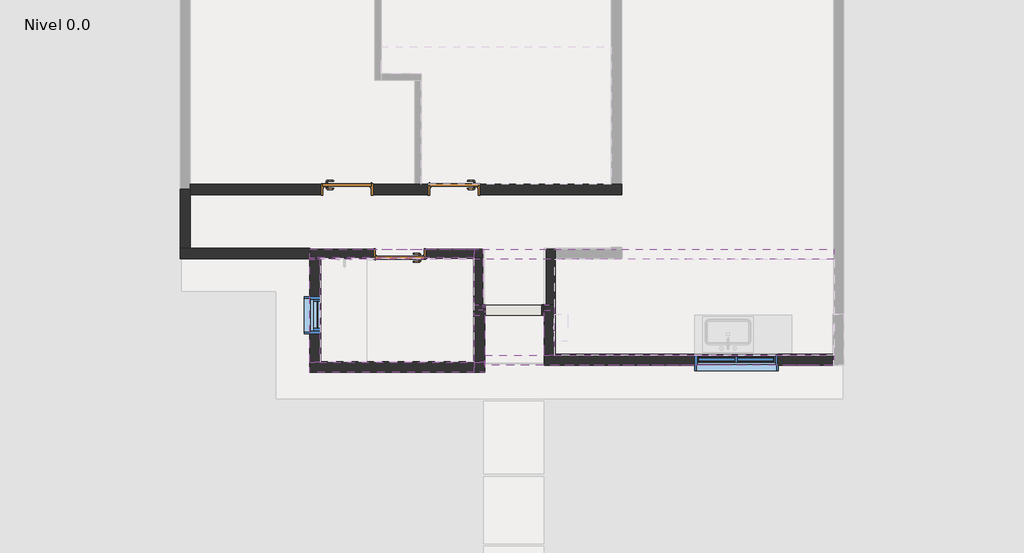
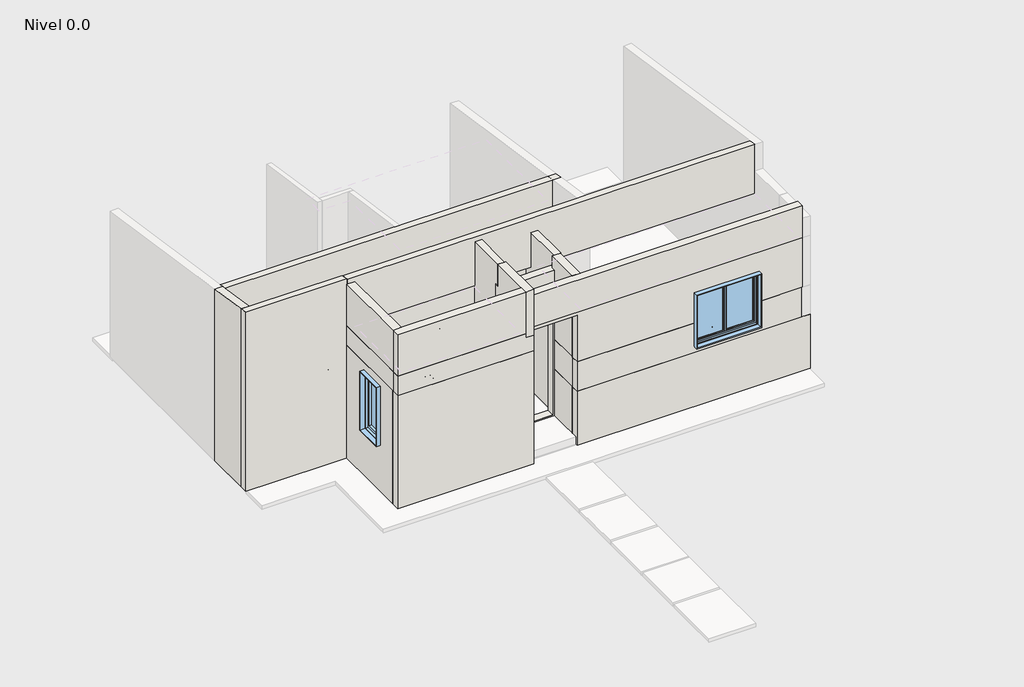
# One storey, part 1 of 2: 27 walls, 3 doors, 2 windows.
"""IFC4 building model written with IfcOpenShell, lengths in millimetres."""

from ifc_helpers import new_model, si_unit, frame, origin, place, context, project, spatial, polyline, outline, extrude, faceted_brep, transform, mapped, element, save
from components import puerta_interior_p3_6b3bcaa5, puerta_interior_p3_2876d2fa, puerta_interior_p3_7086e057, v2_3362589a, ventana1_20x1_20_v1_279ed5bb

model = new_model("IFC4")

# Units and contexts
model_context = context("Model", 3, world=origin())
ifc_project = project(units=[si_unit("LENGTHUNIT", "METRE", prefix="MILLI")], contexts=[model_context])

# Site, building, storey
site = spatial("IfcSite", under=ifc_project)
building = spatial("IfcBuilding", under=site)
storey = spatial("IfcBuildingStorey", under=building, Name="Nivel 0.0", Elevation=0.0)

# Doors
placement = place(None, origin())
puerta_interior_p3_shape = puerta_interior_p3_6b3bcaa5(model_context)
element("IfcDoor", 1, ObjectType="Puerta Interior : P3", at=placement, inside=storey, context=model_context, shape_type="MappedRepresentation", body=[
    mapped(puerta_interior_p3_shape, transform((-5709.8471251, -1747.7987, -0.816385), x_axis=(1.0, 0.0, 0.0), y_axis=(0.0, 1.0, 0.0), z_axis=(0.0, 0.0, 1.0))),
])
puerta_interior_p3_2_shape = puerta_interior_p3_2876d2fa(model_context)
element("IfcDoor", 2, ObjectType="Puerta Interior : P3", at=placement, inside=storey, context=model_context, shape_type="MappedRepresentation", body=[
    mapped(puerta_interior_p3_2_shape, transform((-6497.085595, -782.2221748, -0.816385), x_axis=(-1.0, 0.0, 0.0), y_axis=(0.0, -1.0, 0.0), z_axis=(0.0, 0.0, 1.0))),
])
puerta_interior_p3_3_shape = puerta_interior_p3_7086e057(model_context)
element("IfcDoor", 3, ObjectType="Puerta Interior : P3", at=placement, inside=storey, context=model_context, shape_type="MappedRepresentation", body=[
    mapped(puerta_interior_p3_3_shape, transform((-4897.085595, -782.2221748, -0.816385), x_axis=(1.0, 0.0, 0.0), y_axis=(0.0, 1.0, 0.0), z_axis=(0.0, 0.0, 1.0))),
])

# Walls
element("IfcWall", 4, ObjectType="Pe-NW-002", at=placement, inside=storey, context=model_context, shape_type="Brep", body=[
    faceted_brep([(-8995.585471, -1817.5487, -175.0), (-7058.0136856, -1817.5487, -175.0), (-7058.0136856, -1817.5487, 3467.4312319), (-8995.585471, -1817.5487, 3467.4312319), (-8995.585471, -1664.5487, -175.0), (-8995.585471, -1664.5487, 3444.4812319), (-8842.585471, -1664.5487, 3444.4812319), (-7058.0136856, -1664.5487, 3444.4812319), (-7058.0136856, -1664.5487, -175.0), (-8953.085471, -1664.5487, -175.0)], [[[0, 1, 2, 3]], [[4, 5, 6, 7, 8, 9]], [[1, 0, 4, 9, 8]], [[2, 1, 8, 7]], [[3, 2, 7, 6, 5]], [[0, 3, 5, 4]]]),
])
element("IfcWall", 5, ObjectType="Pi-NW-054", at=placement, inside=storey, context=model_context, shape_type="Brep", body=[
    faceted_brep([(-2388.7184884, -859.4721748, 3323.7197531), (-8842.585471, -859.4721748, 3323.7197531), (-8842.585471, -859.4721748, 0.0), (-6887.085595, -859.4721748, 0.0), (-6887.085595, -859.4721748, 2099.183615), (-6107.085595, -859.4721748, 2099.183615), (-6107.085595, -859.4721748, 0.0), (-5287.085595, -859.4721748, 0.0), (-5287.085595, -859.4721748, 2099.183615), (-4507.085595, -859.4721748, 2099.183615), (-4507.085595, -859.4721748, 0.0), (-2388.7184884, -859.4721748, 0.0), (-8842.585471, -704.9721748, 3300.5447531), (-5484.335595, -704.9721748, 3300.5447531), (-5389.835595, -704.9721748, 3300.5447531), (-2388.7184884, -704.9721748, 3300.5447531), (-2388.7184884, -704.9721748, 2100.0), (-2388.7184884, -704.9721748, 0.0), (-2543.2184884, -704.9721748, 0.0), (-4507.085595, -704.9721748, 0.0), (-4507.085595, -704.9721748, 2099.183615), (-5287.085595, -704.9721748, 2099.183615), (-5287.085595, -704.9721748, 0.0), (-5389.835595, -704.9721748, 0.0), (-5484.335595, -704.9721748, 0.0), (-6107.085595, -704.9721748, 0.0), (-6107.085595, -704.9721748, 2099.183615), (-6887.085595, -704.9721748, 2099.183615), (-6887.085595, -704.9721748, 0.0), (-8842.585471, -704.9721748, 0.0), (-8842.585471, -782.2221748, 3312.1322531)], [[[0, 1, 2, 3, 4, 5, 6, 7, 8, 9, 10, 11]], [[12, 13, 14, 15, 16, 17, 18, 19, 20, 21, 22, 23, 24, 25, 26, 27, 28, 29]], [[3, 2, 29, 28]], [[6, 25, 24, 23, 22, 7]], [[17, 11, 10, 19, 18]], [[1, 0, 15, 14, 13, 12, 30]], [[4, 3, 28, 27]], [[5, 4, 27, 26]], [[6, 5, 26, 25]], [[9, 20, 19, 10]], [[20, 9, 8, 21]], [[21, 8, 7, 22]], [[2, 1, 30, 12, 29]], [[0, 11, 17, 16, 15]]]),
])
element("IfcWall", 6, ObjectType="Pe-NW-001", at=placement, inside=storey, context=model_context, shape_type="Brep", body=[
    faceted_brep([(-7053.5136856, -1832.0487, 2477.1107105), (784.414529, -1832.0487, 2477.1107105), (784.414529, -1832.0487, 2925.0), (784.414529, -1832.0487, 3469.6062319), (-7053.5136856, -1832.0487, 3469.6062319), (784.414529, -1679.5487, 2477.1107105), (-7053.5136856, -1679.5487, 2477.1107105), (-7053.5136856, -1679.5487, 3446.7312319), (-2543.2184884, -1679.5487, 3446.7312319), (-2388.7184884, -1679.5487, 3446.7312319), (784.414529, -1679.5487, 3446.7312319)], [[[0, 1, 2, 3, 4]], [[5, 6, 7, 8, 9, 10]], [[4, 3, 10, 9, 8, 7]], [[1, 0, 6, 5]], [[6, 0, 4, 7]], [[1, 5, 10, 3, 2]]]),
])
element("IfcWall", 7, ObjectType="Pe-NW-006", at=placement, inside=storey, context=model_context, shape_type="Brep", body=[
    faceted_brep([(-7058.0136856, -3522.7853265, -175.0), (-4439.0136856, -3522.7853265, -175.0), (-4439.0136856, -3522.7853265, 2125.0), (-7058.0136856, -3522.7853265, 2125.0), (-7058.0136856, -3358.7853265, 2125.0), (-6894.0136856, -3358.7853265, 2125.0), (-4591.0136856, -3358.7853265, 2125.0), (-4439.0136856, -3358.7853265, 2125.0), (-4439.0136856, -3358.7853265, 2037.3907384), (-4439.0136856, -3358.7853265, -25.0), (-4603.0136856, -3358.7853265, -25.0), (-6196.1040625, -3358.7853265, -25.0), (-6196.1040625, -3358.7853265, -50.816385), (-6898.7636856, -3358.7853265, -50.816385), (-6898.7636856, -3358.7853265, -25.0), (-7016.0136856, -3358.7853265, -25.0), (-7016.0136856, -3358.7853265, -175.0), (-7058.0136856, -3358.7853265, -175.0), (-7016.0136856, -3480.7853265, -175.0), (-4481.0136856, -3480.7853265, -175.0), (-4481.0136856, -3375.7853265, -175.0), (-4439.0136856, -3375.7853265, -175.0), (-4439.0136856, -3370.7853265, 2125.0), (-7058.0136856, -3370.7853265, 2125.0), (-4439.0136856, -3375.7853265, -25.0), (-6196.1040625, -3363.5353265, -50.816385), (-6898.7636856, -3363.5353265, -50.816385), (-4481.0136856, -3480.7853265, -25.0), (-7016.0136856, -3480.7853265, -25.0), (-6898.7636856, -3363.5353265, -25.0), (-6196.1040625, -3363.5353265, -25.0), (-4481.0136856, -3375.7853265, -25.0)], [[[0, 1, 2, 3]], [[4, 5, 6, 7, 8, 9, 10, 11, 12, 13, 14, 15, 16, 17]], [[1, 0, 17, 16, 18, 19, 20, 21]], [[3, 2, 22, 7, 6, 5, 4, 23]], [[7, 22, 2, 1, 21, 24, 9, 8]], [[13, 12, 25, 26]], [[27, 28, 15, 14, 29, 30, 11, 10, 9, 24, 31]], [[20, 31, 24, 21]], [[27, 31, 20, 19]], [[28, 27, 19, 18]], [[30, 25, 12, 11]], [[30, 29, 26, 25]], [[26, 29, 14, 13]], [[0, 3, 23, 4, 17]], [[28, 18, 16, 15]]]),
    faceted_brep([(-6898.7636856, -3358.7853265, -75.816385), (-6196.1040625, -3358.7853265, -75.816385), (-6196.1040625, -3358.7853265, -175.0), (-6894.0136856, -3358.7853265, -175.0), (-6898.7636856, -3358.7853265, -175.0), (-6196.1040625, -3363.5353265, -175.0), (-6898.7636856, -3363.5353265, -175.0), (-6898.7636856, -3363.5353265, -75.816385), (-6196.1040625, -3363.5353265, -75.816385)], [[[0, 1, 2, 3, 4]], [[4, 3, 2, 5, 6]], [[1, 0, 7, 8]], [[8, 5, 2, 1]], [[5, 8, 7, 6]], [[6, 7, 0, 4]]]),
])
element("IfcWall", 8, ObjectType="Pe-NW-004", at=placement, inside=storey, context=model_context, shape_type="Brep", body=[
    faceted_brep([(-7058.0136856, -3522.7853265, 2525.0), (-4591.0136856, -3522.7853265, 2525.0), (-4591.0136856, -3522.7853265, 3370.0), (-7058.0136856, -3522.7853265, 3370.0), (-7058.0136856, -3370.7853265, 2525.0), (-7058.0136856, -3370.7853265, 3370.0), (-6906.0136856, -3370.7853265, 3370.0), (-4591.0136856, -3370.7853265, 3370.0), (-4591.0136856, -3370.7853265, 2525.0), (-6906.0136856, -3370.7853265, 2525.0)], [[[0, 1, 2, 3]], [[4, 5, 6, 7, 8, 9]], [[1, 0, 4, 9, 8]], [[3, 2, 7, 6, 5]], [[1, 8, 7, 2]], [[0, 3, 5, 4]]]),
])
element("IfcWall", 9, ObjectType="Pe-NW-003", at=placement, inside=storey, context=model_context, shape_type="Brep", body=[
    faceted_brep([(-3548.0136856, -2512.9025284, 925.0), (-3548.0136856, -2665.9025284, 925.0), (-3548.0136856, -3253.7853265, 925.0), (-3548.0136856, -3253.7853265, 1525.0), (-3548.0136856, -2512.9025284, 1525.0), (-3383.5136856, -2512.9025284, 925.0), (-3383.5136856, -2512.9025284, 1525.0), (-3383.5136856, -3253.7853265, 1525.0), (-3383.5136856, -3253.7853265, 925.0), (-3383.5136856, -2665.9025284, 925.0), (-3395.0136856, -2512.9025284, 1525.0)], [[[0, 1, 2, 3, 4]], [[5, 6, 7, 8, 9]], [[2, 1, 0, 5, 9, 8]], [[4, 3, 7, 6, 10]], [[0, 4, 10, 6, 5]], [[3, 2, 8, 7]]]),
])
element("IfcWall", 10, ObjectType="Pe-NW-002", at=placement, inside=storey, context=model_context, shape_type="Brep", body=[
    faceted_brep([(-3548.0136856, -2512.9025284, 1525.0), (-3548.0136856, -3253.7853265, 1525.0), (-3548.0136856, -3265.2853265, 1525.0), (-3548.0136856, -3265.2853265, 2470.0), (-3548.0136856, -2512.9025284, 2470.0), (-3395.0136856, -3265.2853265, 1525.0), (-3395.0136856, -2512.9025284, 1525.0), (-3395.0136856, -2512.9025284, 2470.0), (-3395.0136856, -3265.2853265, 2470.0)], [[[0, 1, 2, 3, 4]], [[5, 6, 7, 8]], [[2, 1, 0, 6, 5]], [[6, 0, 4, 7]], [[4, 3, 8, 7]], [[2, 5, 8, 3]]]),
])
element("IfcWall", 11, ObjectType="Pe-NW-003", at=placement, inside=storey, context=model_context, shape_type="Brep", body=[
    faceted_brep([(-3548.0136856, -3418.2853265, 925.0), (772.914529, -3418.2853265, 925.0), (772.914529, -3418.2853265, 1525.0), (-50.5614537, -3418.2853265, 1525.0), (-50.5614537, -3418.2853265, 1040.0), (-1300.5614537, -3418.2853265, 1040.0), (-1300.5614537, -3418.2853265, 1525.0), (-3548.0136856, -3418.2853265, 1525.0), (772.914529, -3253.7853265, 925.0), (-3383.5136856, -3253.7853265, 925.0), (-3548.0136856, -3253.7853265, 925.0), (-3548.0136856, -3253.7853265, 1525.0), (-3383.5136856, -3253.7853265, 1525.0), (-1300.5614537, -3253.7853265, 1525.0), (-1300.5614537, -3253.7853265, 1040.0), (-50.5614537, -3253.7853265, 1040.0), (-50.5614537, -3253.7853265, 1525.0), (772.914529, -3253.7853265, 1525.0), (-3548.0136856, -3265.2853265, 1525.0), (-3548.0136856, -3265.2853265, 925.0)], [[[0, 1, 2, 3, 4, 5, 6, 7]], [[8, 9, 10, 11, 12, 13, 14, 15, 16, 17]], [[15, 4, 3, 16]], [[5, 14, 13, 6]], [[4, 15, 14, 5]], [[2, 17, 16, 3]], [[11, 18, 7, 6, 13, 12]], [[1, 0, 19, 10, 9, 8]], [[2, 1, 8, 17]], [[0, 7, 18, 11, 10, 19]]]),
])
element("IfcWall", 12, ObjectType="Pe-NW-002", at=placement, inside=storey, context=model_context, shape_type="Brep", body=[
    faceted_brep([(784.414529, -3418.2853265, 2525.0), (-4439.0136856, -3418.2853265, 2525.0), (-4439.0136856, -3418.2853265, 2470.0), (-3548.0136856, -3418.2853265, 2470.0), (-3548.0136856, -3418.2853265, 1525.0), (-1300.5614537, -3418.2853265, 1525.0), (-1300.5614537, -3418.2853265, 2140.0), (-50.5614537, -3418.2853265, 2140.0), (-50.5614537, -3418.2853265, 1525.0), (772.914529, -3418.2853265, 1525.0), (784.414529, -3418.2853265, 1525.0), (-4439.0136856, -3265.2853265, 2525.0), (784.414529, -3265.2853265, 2525.0), (784.414529, -3265.2853265, 1525.0), (-50.5614537, -3265.2853265, 1525.0), (-50.5614537, -3265.2853265, 2140.0), (-1300.5614537, -3265.2853265, 2140.0), (-1300.5614537, -3265.2853265, 1525.0), (-3395.0136856, -3265.2853265, 1525.0), (-3548.0136856, -3265.2853265, 1525.0), (-3548.0136856, -3265.2853265, 2470.0), (-4439.0136856, -3265.2853265, 2470.0)], [[[0, 1, 2, 3, 4, 5, 6, 7, 8, 9, 10]], [[11, 12, 13, 14, 15, 16, 17, 18, 19, 20, 21]], [[1, 0, 12, 11]], [[13, 10, 9, 8, 14]], [[4, 19, 18, 17, 5]], [[0, 10, 13, 12]], [[3, 2, 21, 20]], [[7, 15, 14, 8]], [[15, 7, 6, 16]], [[16, 6, 5, 17]], [[4, 3, 20, 19]], [[2, 1, 11, 21]]]),
])
element("IfcWall", 13, ObjectType="Pe-NW-001", at=placement, inside=storey, context=model_context, shape_type="Brep", body=[
    faceted_brep([(784.914529, -3418.2853265, 3180.0), (-4439.0136856, -3418.2853265, 3180.0), (-4439.0136856, -3418.2853265, 2525.0), (784.414529, -3418.2853265, 2525.0), (784.914529, -3418.2853265, 2525.0), (784.914529, -3418.2853265, 2925.0), (784.914529, -3265.7853265, 3180.0), (784.914529, -3265.7853265, 2525.0), (-4439.0136856, -3265.7853265, 2525.0), (-4439.0136856, -3265.7853265, 3180.0), (-3548.0136856, -3265.7853265, 3180.0), (-3395.5136856, -3265.7853265, 3180.0)], [[[0, 1, 2, 3, 4, 5]], [[6, 7, 8, 9, 10, 11]], [[1, 0, 6, 11, 10, 9]], [[4, 3, 2, 8, 7]], [[0, 5, 4, 7, 6]], [[2, 1, 9, 8]]]),
])
element("IfcWall", 14, ObjectType="Pe-NW-006", at=placement, inside=storey, context=model_context, shape_type="Brep", body=[
    faceted_brep([(-4439.0136856, -3358.7853265, -262.6092616), (-4439.0136856, -2512.9025284, -262.6092616), (-4439.0136856, -2512.9025284, -175.0), (-4439.0136856, -3358.7853265, -175.0), (-4603.0136856, -2512.9025284, -262.6092616), (-4603.0136856, -3358.7853265, -262.6092616), (-4603.0136856, -3358.7853265, -175.0), (-4603.0136856, -2512.9025284, -175.0)], [[[0, 1, 2, 3]], [[4, 5, 6, 7]], [[1, 0, 5, 4]], [[5, 0, 3, 6]], [[3, 2, 7, 6]], [[1, 4, 7, 2]]]),
    faceted_brep([(-4439.0136856, -2512.9025284, 2037.3907384), (-4439.0136856, -2665.9025284, 2037.3907384), (-4439.0136856, -3358.7853265, 2037.3907384), (-4439.0136856, -3358.7853265, -25.0), (-4439.0136856, -2512.9025284, -25.0), (-4603.0136856, -3358.7853265, 2037.3907384), (-4603.0136856, -2665.9025284, 2037.3907384), (-4603.0136856, -2512.9025284, 2037.3907384), (-4603.0136856, -2512.9025284, -25.0), (-4603.0136856, -3358.7853265, -25.0), (-4591.0136856, -3358.7853265, 2037.3907384)], [[[0, 1, 2, 3, 4]], [[5, 6, 7, 8, 9]], [[2, 1, 0, 7, 6, 5, 10]], [[2, 10, 5, 9, 3]], [[4, 3, 9, 8]], [[7, 0, 4, 8]]]),
])
element("IfcWall", 15, ObjectType="Pe-NW-004", at=placement, inside=storey, context=model_context, shape_type="Brep", body=[
    faceted_brep([(-4439.0136856, -3522.7853265, 2437.3907384), (-4439.0136856, -3370.7853265, 2437.3907384), (-4439.0136856, -2665.9025284, 2437.3907384), (-4439.0136856, -2512.9025284, 2437.3907384), (-4439.0136856, -2512.9025284, 2925.0), (-4439.0136856, -2589.4025284, 2925.0), (-4439.0136856, -2589.4025284, 3370.0), (-4439.0136856, -3522.7853265, 3370.0), (-4591.0136856, -2512.9025284, 2437.3907384), (-4591.0136856, -2665.9025284, 2437.3907384), (-4591.0136856, -3370.7853265, 2437.3907384), (-4591.0136856, -3522.7853265, 2437.3907384), (-4591.0136856, -3522.7853265, 2525.0), (-4591.0136856, -3522.7853265, 3370.0), (-4591.0136856, -3370.7853265, 3370.0), (-4591.0136856, -2589.4025284, 3370.0), (-4591.0136856, -2589.4025284, 2925.0), (-4591.0136856, -2512.9025284, 2925.0), (-4466.5136856, -2512.9025284, 2437.3907384), (-4466.5136856, -2589.4025284, 3370.0), (-4466.5136856, -2589.4025284, 2925.0), (-4466.5136856, -2512.9025284, 2925.0)], [[[0, 1, 2, 3, 4, 5, 6, 7]], [[8, 9, 10, 11, 12, 13, 14, 15, 16, 17]], [[3, 2, 1, 0, 11, 10, 9, 8, 18]], [[7, 6, 19, 15, 14, 13]], [[16, 15, 19, 6, 5, 20]], [[5, 4, 21, 17, 16, 20]], [[7, 13, 12, 11, 0]], [[4, 3, 18, 8, 17, 21]]]),
])
element("IfcWall", 16, ObjectType="Pi-NW-053", at=placement, inside=storey, context=model_context, shape_type="Brep", body=[
    faceted_brep([(-4466.5136856, -1816.0487, 2100.0), (-4591.0136856, -1816.0487, 2100.0), (-7058.0136856, -1816.0487, 2100.0), (-7058.0136856, -1816.0487, 0.0), (-6099.8471251, -1816.0487, 0.0), (-6099.8471251, -1816.0487, 2099.183615), (-5319.8471251, -1816.0487, 2099.183615), (-5319.8471251, -1816.0487, 0.0), (-4466.5136856, -1816.0487, 0.0), (-4466.5136856, -1816.0487, 2039.183615), (-7058.0136856, -1679.5487, 2100.0), (-4591.0136856, -1679.5487, 2100.0), (-4466.5136856, -1679.5487, 2100.0), (-4466.5136856, -1679.5487, 0.0), (-5319.8471251, -1679.5487, 0.0), (-5319.8471251, -1679.5487, 2099.183615), (-6099.8471251, -1679.5487, 2099.183615), (-6099.8471251, -1679.5487, 0.0), (-7058.0136856, -1679.5487, 0.0), (-7058.0136856, -1804.0487, 2100.0)], [[[0, 1, 2, 3, 4, 5, 6, 7, 8, 9]], [[10, 11, 12, 13, 14, 15, 16, 17, 18]], [[13, 8, 7, 14]], [[3, 18, 17, 4]], [[2, 1, 0, 12, 11, 10, 19]], [[6, 15, 14, 7]], [[15, 6, 5, 16]], [[16, 5, 4, 17]], [[8, 13, 12, 0, 9]], [[3, 2, 19, 10, 18]]]),
])
element("IfcWall", 17, ObjectType="Pi-NW-053", at=placement, inside=storey, context=model_context, shape_type="Brep", body=[
    faceted_brep([(-3383.5136856, -2512.9025284, 1525.0), (-3383.5136856, -2512.9025284, 925.0), (-3383.5136856, -2512.9025284, -175.0), (-3383.5136856, -1816.0487, -175.0), (-3383.5136856, -1679.5487, -175.0), (-3383.5136856, -1679.5487, 2477.1107105), (-3383.5136856, -1679.5487, 3180.0), (-3383.5136856, -2589.4025284, 3180.0), (-3383.5136856, -2589.4025284, 2925.0), (-3383.5136856, -2512.9025284, 2925.0), (-3520.0136856, -2512.9025284, -175.0), (-3520.0136856, -2512.9025284, 1525.0), (-3520.0136856, -2512.9025284, 2925.0), (-3520.0136856, -2589.4025284, 2925.0), (-3520.0136856, -2589.4025284, 3180.0), (-3520.0136856, -1679.5487, 3180.0), (-3520.0136856, -1679.5487, -175.0), (-3395.5136856, -2589.4025284, 3180.0), (-3395.5136856, -2589.4025284, 2925.0), (-3395.5136856, -2512.9025284, 2925.0)], [[[0, 1, 2, 3, 4, 5, 6, 7, 8, 9]], [[10, 11, 12, 13, 14, 15, 16]], [[4, 3, 2, 10, 16]], [[7, 6, 15, 14, 17]], [[6, 5, 4, 16, 15]], [[8, 7, 17, 14, 13, 18]], [[8, 18, 13, 12, 19, 9]], [[9, 19, 12, 11, 0]], [[0, 11, 10, 2, 1]]]),
])
element("IfcWall", 18, ObjectType="Pe-NW-002", at=placement, inside=storey, context=model_context, shape_type="Brep", body=[
    faceted_brep([(-4439.0136856, -2665.9025284, -175.0), (-3548.0136856, -2665.9025284, -175.0), (-3395.0136856, -2665.9025284, -175.0), (-3383.5136856, -2665.9025284, -175.0), (-3383.5136856, -2665.9025284, 925.0), (-3395.0136856, -2665.9025284, 925.0), (-3548.0136856, -2665.9025284, 925.0), (-3548.0136856, -2665.9025284, 2525.0), (-3395.5136856, -2665.9025284, 2525.0), (-3395.5136856, -2665.9025284, 2659.0), (-3395.5136856, -2665.9025284, 2925.0), (-3548.0136856, -2665.9025284, 2925.0), (-4439.0136856, -2665.9025284, 2925.0), (-4439.0136856, -2665.9025284, 2437.3907384), (-4591.0136856, -2665.9025284, 2437.3907384), (-4591.0136856, -2665.9025284, 2039.183615), (-4603.0136856, -2665.9025284, 2039.183615), (-4603.0136856, -2665.9025284, 2037.3907384), (-4591.0136856, -2665.9025284, 2037.3907384), (-4439.0136856, -2665.9025284, 2037.3907384), (-3581.1346192, -2665.9025284, 2100.0), (-3581.1346192, -2665.9025284, 0.0), (-4431.1346192, -2665.9025284, 0.0), (-4431.1346192, -2665.9025284, 2100.0), (-3383.5136856, -2512.9025284, -175.0), (-3520.0136856, -2512.9025284, -175.0), (-4439.0136856, -2512.9025284, -175.0), (-4439.0136856, -2512.9025284, -25.0), (-4439.0136856, -2512.9025284, 2037.3907384), (-4603.0136856, -2512.9025284, 2037.3907384), (-4603.0136856, -2512.9025284, 2039.183615), (-4591.0136856, -2512.9025284, 2039.183615), (-4591.0136856, -2512.9025284, 2437.3907384), (-4466.5136856, -2512.9025284, 2437.3907384), (-4439.0136856, -2512.9025284, 2437.3907384), (-4439.0136856, -2512.9025284, 2925.0), (-3520.0136856, -2512.9025284, 2925.0), (-3395.5136856, -2512.9025284, 2925.0), (-3395.5136856, -2512.9025284, 2525.0), (-3548.0136856, -2512.9025284, 2525.0), (-3548.0136856, -2512.9025284, 2470.0), (-3548.0136856, -2512.9025284, 1525.0), (-3548.0136856, -2512.9025284, 925.0), (-3383.5136856, -2512.9025284, 925.0), (-3581.1346192, -2512.9025284, 0.0), (-3581.1346192, -2512.9025284, 2100.0), (-4431.1346192, -2512.9025284, 2100.0), (-4431.1346192, -2512.9025284, 0.0), (-3395.5136856, -2589.4025284, 2925.0), (-4439.0136856, -2589.4025284, 2925.0)], [[[0, 1, 2, 3, 4, 5, 6, 7, 8, 9, 10, 11, 12, 13, 14, 15, 16, 17, 18, 19], [20, 21, 22, 23]], [[24, 25, 26, 27, 28, 29, 30, 31, 32, 33, 34, 35, 36, 37, 38, 39, 40, 41, 42, 43], [44, 45, 46, 47]], [[3, 2, 1, 0, 26, 25, 24]], [[12, 11, 10, 48, 37, 36, 35, 49]], [[45, 44, 21, 20]], [[46, 45, 20, 23]], [[47, 46, 23, 22]], [[44, 47, 22, 21]], [[6, 5, 4, 43, 42]], [[8, 7, 39, 38]], [[4, 3, 24, 43]], [[6, 42, 41, 40, 39, 7]], [[29, 28, 19, 18, 17]], [[26, 0, 19, 28, 27]], [[29, 17, 16, 30]], [[15, 14, 32, 31]], [[12, 49, 35, 34, 13]], [[37, 48, 10, 9, 8, 38]], [[31, 30, 16, 15]], [[14, 13, 34, 33, 32]]]),
])
element("IfcWall", 19, ObjectType="Pe-NW-001", at=placement, inside=storey, context=model_context, shape_type="Brep", body=[
    faceted_brep([(-3548.0136856, -3265.7853265, 3180.0), (-3548.0136856, -2589.4025284, 3180.0), (-3548.0136856, -2589.4025284, 2925.0), (-3548.0136856, -2665.9025284, 2925.0), (-3548.0136856, -2665.9025284, 2659.0), (-3548.0136856, -3265.7853265, 2659.0), (-3395.5136856, -2589.4025284, 3180.0), (-3395.5136856, -3265.7853265, 3180.0), (-3395.5136856, -3265.7853265, 2659.0), (-3395.5136856, -2665.9025284, 2659.0), (-3395.5136856, -2665.9025284, 2925.0), (-3395.5136856, -2589.4025284, 2925.0), (-3520.0136856, -2589.4025284, 3180.0), (-3520.0136856, -2589.4025284, 2925.0)], [[[0, 1, 2, 3, 4, 5]], [[6, 7, 8, 9, 10, 11]], [[1, 0, 7, 6, 12]], [[1, 12, 6, 11, 13, 2]], [[3, 10, 9, 4]], [[2, 13, 11, 10, 3]], [[5, 4, 9, 8]], [[7, 0, 5, 8]]]),
])
element("IfcWall", 20, ObjectType="Pi-NW-052", at=placement, inside=storey, context=model_context, shape_type="Brep", body=[
    faceted_brep([(-4466.5136856, -2512.9025284, 2039.183615), (-4466.5136856, -1816.0487, 2039.183615), (-4466.5136856, -1816.0487, 2100.0), (-4466.5136856, -1679.5487, 2100.0), (-4466.5136856, -1679.5487, 3370.816385), (-4466.5136856, -2589.4025284, 3370.816385), (-4466.5136856, -2589.4025284, 2925.0), (-4466.5136856, -2512.9025284, 2925.0), (-4591.0136856, -1816.0487, 2039.183615), (-4591.0136856, -2512.9025284, 2039.183615), (-4591.0136856, -2512.9025284, 2437.3907384), (-4591.0136856, -2512.9025284, 2925.0), (-4591.0136856, -2589.4025284, 2925.0), (-4591.0136856, -2589.4025284, 3370.0), (-4591.0136856, -2589.4025284, 3370.816385), (-4591.0136856, -1679.5487, 3370.816385), (-4591.0136856, -1679.5487, 2477.1107105), (-4591.0136856, -1679.5487, 2100.0), (-4591.0136856, -1804.0487, 2100.0), (-4591.0136856, -1816.0487, 2100.0)], [[[0, 1, 2, 3, 4, 5, 6, 7]], [[8, 9, 10, 11, 12, 13, 14, 15, 16, 17, 18, 19]], [[1, 0, 9, 8]], [[5, 4, 15, 14]], [[5, 14, 13, 12, 6]], [[9, 0, 7, 11, 10]], [[3, 2, 19, 18, 17]], [[1, 8, 19, 2]], [[15, 4, 3, 17, 16]], [[6, 12, 11, 7]]]),
])
element("IfcWall", 21, ObjectType="Pi-NW-053", at=placement, inside=storey, context=model_context, shape_type="Brep", body=[
    faceted_brep([(-4466.5136856, -2512.9025284, -60.816385), (-4466.5136856, -1816.0487, -60.816385), (-4466.5136856, -1816.0487, 0.0), (-4466.5136856, -1816.0487, 2039.183615), (-4466.5136856, -2512.9025284, 2039.183615), (-4603.0136856, -2512.9025284, -60.816385), (-4603.0136856, -2512.9025284, -25.0), (-4603.0136856, -2512.9025284, 2037.3907384), (-4603.0136856, -2512.9025284, 2039.183615), (-4603.0136856, -1816.0487, 2039.183615), (-4603.0136856, -1816.0487, -60.816385), (-4591.0136856, -1816.0487, 2039.183615), (-4591.0136856, -2512.9025284, 2039.183615)], [[[0, 1, 2, 3, 4]], [[5, 6, 7, 8, 9, 10]], [[1, 0, 5, 10]], [[4, 3, 11, 9, 8, 12]], [[3, 2, 1, 10, 9, 11]], [[0, 4, 12, 8, 7, 6, 5]]]),
])
element("IfcWall", 22, ObjectType="Pi-NW-052", at=placement, inside=storey, context=model_context, shape_type="Brep", body=[
    faceted_brep([(-7058.0136856, -1804.0487, 2100.0), (-4591.0136856, -1804.0487, 2100.0), (-4591.0136856, -1804.0487, 2477.1107105), (-7058.0136856, -1804.0487, 2477.1107105), (-7058.0136856, -1804.0487, 2125.0), (-7058.0136856, -1679.5487, 2100.0), (-7058.0136856, -1679.5487, 2477.1107105), (-4591.0136856, -1679.5487, 2477.1107105), (-4591.0136856, -1679.5487, 2100.0)], [[[0, 1, 2, 3, 4]], [[5, 6, 7, 8]], [[1, 0, 5, 8]], [[3, 2, 7, 6]], [[2, 1, 8, 7]], [[0, 4, 3, 6, 5]]]),
])
element("IfcWall", 23, ObjectType="Pe-NW-002", at=placement, inside=storey, context=model_context, shape_type="Brep", body=[
    faceted_brep([(-8995.585471, -782.2221748, -175.0), (-8995.585471, -1664.5487, -175.0), (-8995.585471, -1664.5487, 3444.4812319), (-8995.585471, -782.2221748, 3312.1322531), (-8842.585471, -782.2221748, 3312.1322531), (-8842.585471, -859.4721748, 3323.7197531), (-8842.585471, -1664.5487, 3444.4812319), (-8842.585471, -1664.5487, -25.0), (-8842.585471, -782.2221748, -25.0), (-8953.085471, -782.2221748, -175.0), (-8953.085471, -1664.5487, -175.0), (-8953.085471, -1664.5487, -25.0), (-8953.085471, -782.2221748, -25.0)], [[[0, 1, 2, 3]], [[4, 5, 6, 7, 8]], [[3, 2, 6, 5, 4]], [[1, 0, 9, 10]], [[2, 1, 10, 11, 7, 6]], [[11, 12, 8, 7]], [[12, 11, 10, 9]], [[3, 4, 8, 12, 9, 0]]]),
])
element("IfcWall", 24, ObjectType="Pe-NW-005", at=placement, inside=storey, context=model_context, shape_type="Brep", body=[
    faceted_brep([(-7058.0136856, -3522.7853265, 2125.0), (-4439.0136856, -3522.7853265, 2125.0), (-4439.0136856, -3522.7853265, 2437.3907384), (-4591.0136856, -3522.7853265, 2437.3907384), (-4591.0136856, -3522.7853265, 2525.0), (-7058.0136856, -3522.7853265, 2525.0), (-7058.0136856, -3370.7853265, 2125.0), (-7058.0136856, -3370.7853265, 2525.0), (-6906.0136856, -3370.7853265, 2525.0), (-4591.0136856, -3370.7853265, 2525.0), (-4591.0136856, -3370.7853265, 2437.3907384), (-4439.0136856, -3370.7853265, 2437.3907384), (-4439.0136856, -3370.7853265, 2125.0), (-4591.0136856, -3370.7853265, 2125.0), (-6906.0136856, -3370.7853265, 2125.0)], [[[0, 1, 2, 3, 4, 5]], [[6, 7, 8, 9, 10, 11, 12, 13, 14]], [[1, 0, 6, 14, 13, 12]], [[5, 4, 9, 8, 7]], [[10, 3, 2, 11]], [[2, 1, 12, 11]], [[3, 10, 9, 4]], [[0, 5, 7, 6]]]),
])
element("IfcWall", 25, ObjectType="Pe-NW-005", at=placement, inside=storey, context=model_context, shape_type="Brep", body=[
    faceted_brep([(-4439.0136856, -3358.7853265, 2037.3907384), (-4439.0136856, -2665.9025284, 2037.3907384), (-4439.0136856, -2665.9025284, 2437.3907384), (-4439.0136856, -3370.7853265, 2437.3907384), (-4439.0136856, -3370.7853265, 2125.0), (-4439.0136856, -3358.7853265, 2125.0), (-4591.0136856, -3358.7853265, 2037.3907384), (-4591.0136856, -3358.7853265, 2125.0), (-4591.0136856, -3370.7853265, 2125.0), (-4591.0136856, -3370.7853265, 2437.3907384), (-4591.0136856, -2665.9025284, 2437.3907384), (-4591.0136856, -2665.9025284, 2039.183615), (-4591.0136856, -2665.9025284, 2037.3907384)], [[[0, 1, 2, 3, 4, 5]], [[6, 7, 8, 9, 10, 11, 12]], [[1, 0, 6, 12]], [[3, 2, 10, 9]], [[2, 1, 12, 11, 10]], [[4, 8, 7, 5]], [[0, 5, 7, 6]], [[4, 3, 9, 8]]]),
])
element("IfcWall", 26, ObjectType="Pe-NW-002", at=placement, inside=storey, context=model_context, shape_type="Brep", body=[
    faceted_brep([(-3548.0136856, -2665.9025284, -175.0), (-3548.0136856, -3265.2853265, -175.0), (-3548.0136856, -3265.2853265, -25.0), (-3548.0136856, -3265.2853265, 925.0), (-3548.0136856, -3253.7853265, 925.0), (-3548.0136856, -2665.9025284, 925.0), (-3395.0136856, -2665.9025284, -175.0), (-3395.0136856, -2665.9025284, 925.0), (-3395.0136856, -3265.2853265, 925.0), (-3395.0136856, -3265.2853265, -175.0)], [[[0, 1, 2, 3, 4, 5]], [[6, 7, 8, 9]], [[1, 0, 6, 9]], [[5, 4, 3, 8, 7]], [[0, 5, 7, 6]], [[3, 2, 1, 9, 8]]]),
])
element("IfcWall", 27, ObjectType="Pe-NW-002", at=placement, inside=storey, context=model_context, shape_type="Brep", body=[
    faceted_brep([(937.414529, -3418.2853265, 925.0), (772.914529, -3418.2853265, 925.0), (-3548.0136856, -3418.2853265, 925.0), (-3548.0136856, -3418.2853265, -175.0), (937.414529, -3418.2853265, -175.0), (-3548.0136856, -3265.2853265, 925.0), (-3395.0136856, -3265.2853265, 925.0), (784.414529, -3265.2853265, 925.0), (937.414529, -3265.2853265, 925.0), (937.414529, -3265.2853265, -175.0), (894.914529, -3265.2853265, -175.0), (894.914529, -3265.2853265, -25.0), (784.414529, -3265.2853265, -25.0), (-3548.0136856, -3265.2853265, -25.0), (-3548.0136856, -3375.7853265, -175.0), (894.914529, -3375.7853265, -175.0), (894.914529, -3375.7853265, -25.0), (-3548.0136856, -3375.7853265, -25.0)], [[[0, 1, 2, 3, 4]], [[5, 6, 7, 8, 9, 10, 11, 12, 13]], [[2, 1, 0, 8, 7, 6, 5]], [[4, 3, 14, 15, 10, 9]], [[0, 4, 9, 8]], [[11, 16, 17, 13, 12]], [[15, 16, 11, 10]], [[16, 15, 14, 17]], [[3, 2, 5, 13, 17, 14]]]),
])
element("IfcWall", 28, ObjectType="Pe-NW-006", at=placement, inside=storey, context=model_context, shape_type="Brep", body=[
    faceted_brep([(-7058.0136856, -1816.0487, -175.0), (-7058.0136856, -3358.7853265, -175.0), (-7058.0136856, -3358.7853265, 2125.0), (-7058.0136856, -1816.0487, 2125.0), (-7058.0136856, -1816.0487, 2100.0), (-7058.0136856, -1816.0487, 0.0), (-7058.0136856, -2934.2261407, 1962.0), (-7058.0136856, -2934.2261407, 762.0), (-7058.0136856, -2384.2261407, 762.0), (-7058.0136856, -2384.2261407, 1962.0), (-6894.0136856, -3358.7853265, -175.0), (-6894.0136856, -1816.0487, -175.0), (-6894.0136856, -1816.0487, -25.0), (-6894.0136856, -1816.0487, 2125.0), (-6894.0136856, -3358.7853265, 2125.0), (-6894.0136856, -2934.2261407, 762.0), (-6894.0136856, -2934.2261407, 1962.0), (-6894.0136856, -2384.2261407, 1962.0), (-6894.0136856, -2384.2261407, 762.0), (-7016.0136856, -1816.0487, -175.0), (-7016.0136856, -3358.7853265, -175.0), (-6898.7636856, -3358.7853265, -175.0), (-6898.7636856, -1816.0487, -175.0), (-7016.0136856, -3358.7853265, -25.0), (-6898.7636856, -3358.7853265, -25.0), (-6898.7636856, -3358.7853265, -50.816385), (-6898.7636856, -3358.7853265, -75.816385), (-7016.0136856, -1816.0487, -25.0), (-6898.7636856, -1816.0487, -25.0)], [[[0, 1, 2, 3, 4, 5], [6, 7, 8, 9]], [[10, 11, 12, 13, 14], [15, 16, 17, 18]], [[1, 0, 19, 20]], [[11, 10, 21, 22]], [[3, 2, 14, 13]], [[15, 7, 6, 16]], [[16, 6, 9, 17]], [[17, 9, 8, 18]], [[7, 15, 18, 8]], [[2, 1, 20, 23, 24, 25, 26, 21, 10, 14]], [[23, 27, 28, 24]], [[27, 23, 20, 19]], [[24, 28, 22, 21, 26, 25]], [[0, 5, 4, 3, 13, 12, 11, 22, 28, 27, 19]]]),
])
element("IfcWall", 29, ObjectType="Pe-NW-005", at=placement, inside=storey, context=model_context, shape_type="Brep", body=[
    faceted_brep([(-7058.0136856, -1804.0487, 2125.0), (-7058.0136856, -1816.0487, 2125.0), (-7058.0136856, -3358.7853265, 2125.0), (-7058.0136856, -3370.7853265, 2125.0), (-7058.0136856, -3370.7853265, 2525.0), (-7058.0136856, -1832.0487, 2525.0), (-7058.0136856, -1804.0487, 2525.0), (-7058.0136856, -1804.0487, 2477.1107105), (-6906.0136856, -1804.0487, 2125.0), (-6906.0136856, -1804.0487, 2525.0), (-6906.0136856, -1832.0487, 2525.0), (-6906.0136856, -3370.7853265, 2525.0), (-6906.0136856, -3370.7853265, 2125.0)], [[[0, 1, 2, 3, 4, 5, 6, 7]], [[8, 9, 10, 11, 12]], [[3, 2, 1, 0, 8, 12]], [[6, 5, 4, 11, 10, 9]], [[4, 3, 12, 11]], [[0, 7, 6, 9, 8]]]),
])
element("IfcWall", 30, ObjectType="Pe-NW-004", at=placement, inside=storey, context=model_context, shape_type="SweptSolid", body=[
    extrude(outline(polyline([(-7058.0136856, -3370.7853265), (-7058.0136856, -1832.0487), (-6906.0136856, -1832.0487), (-6906.0136856, -3370.7853265), (-7058.0136856, -3370.7853265)])), frame((0.0, 0.0, 2525.0), z_axis=(0.0, 0.0, 1.0), x_axis=(1.0, 0.0, 0.0)), (0.0, 0.0, 1.0), 845.0),
])

# Windows
v2_shape = v2_3362589a(model_context)
element("IfcWindow", 31, ObjectType="Ventana batiente horizontal V2 : V2", at=placement, inside=storey, context=model_context, shape_type="MappedRepresentation", body=[
    mapped(v2_shape, transform((-6976.0136856, -2658.0487, 0.0), x_axis=(0.0, 1.0, 0.0), y_axis=(-1.0, 0.0, 0.0), z_axis=(0.0, 0.0, 1.0))),
])
ventana1_20x1_20_v1_shape = ventana1_20x1_20_v1_279ed5bb(model_context)
element("IfcWindow", 32, ObjectType="Ventana1,20x1.20 : V1", at=placement, inside=storey, context=model_context, shape_type="MappedRepresentation", body=[
    mapped(ventana1_20x1_20_v1_shape, transform((-673.9782862, -3336.0353265, 0.0), x_axis=(-1.0, 0.0, 0.0), y_axis=(0.0, -1.0, 0.0), z_axis=(0.0, 0.0, 1.0))),
])

save(model, "model.ifc")
